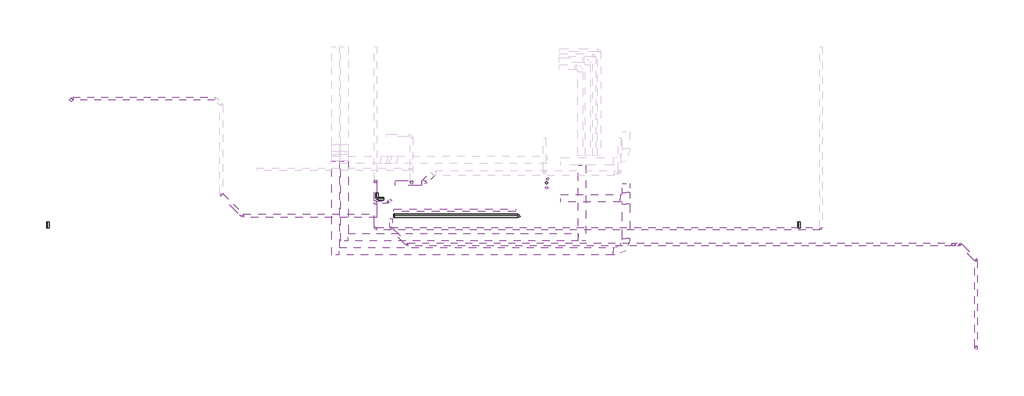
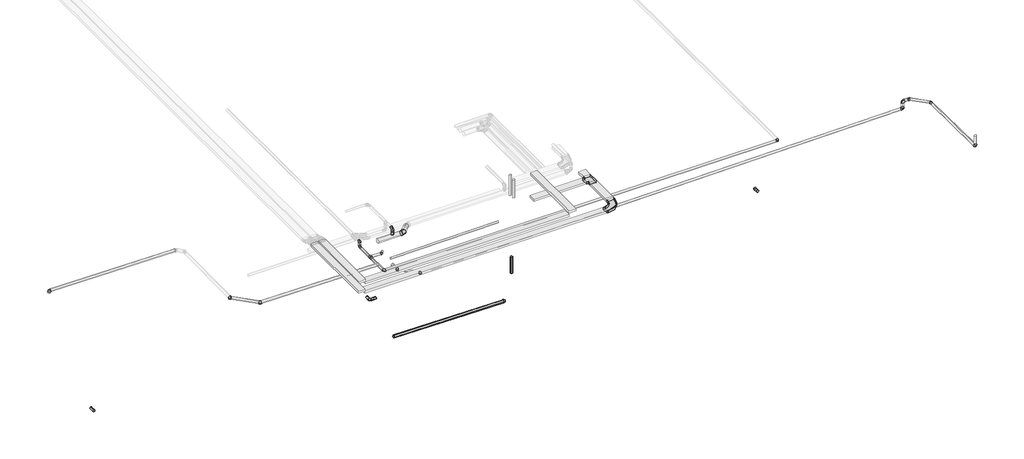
# One storey, part 1 of 5: 27 pipe segments, 18 pipe fittings, 8 cable carrier segments, 3 duct fittings, 3 duct segments, 2 cable carrier fittings.
"""IFC4 building model written with IfcOpenShell, lengths in millimetres."""

from ifc_helpers import new_model, si_unit, point, frame, frame_2d, origin, place, context, project, spatial, polyline, circle_curve, trimmed, segment, composite_curve, outline, extrude, transform, mapped, element, save
from components import el_radio_300_mm_312ed4b1, m_codo_horizontal_de_canal_el_5b0e7b07, ext_562ff85e, m_codo_redondo_ext_1_d_96ea52f9, m_codo_redondo_ext_1_d_19f6bd6d, pipe_fitting_911ec8aa, pipe_fitting_0b7fd5a4, pipe_fitting_aab77541, pipe_fitting_0af9fee6, pipe_fitting_39727cd3, pipe_fitting_87aeffad, pipe_fitting_4a6b8cfe, pipe_fitting_2d09eb79, pipe_fitting_6566bc79

model = new_model("IFC4")

# Units and contexts
model_context = context("Model", 3, world=origin())
ifc_project = project(units=[si_unit("LENGTHUNIT", "METRE", prefix="MILLI")], contexts=[model_context])

# Site, building, storey
site = spatial("IfcSite", under=ifc_project)
building = spatial("IfcBuilding", under=site)
storey = spatial("IfcBuildingStorey", under=building, Name="Nivell 01 P01_PP", Elevation=11160.0)

# Cable carrier fittings
placement = place(None, origin())
el_radio_300_mm_shape = el_radio_300_mm_312ed4b1(model_context)
element("IfcCableCarrierFitting", 1, ObjectType="M_Te horizontal de canal : EL_Radio 300 mm", at=placement, inside=storey, context=model_context, shape_type="MappedRepresentation", body=[
    mapped(el_radio_300_mm_shape, transform((16614.6624278, -16993.7433657, 14324.0212739), x_axis=(0.0, -1.0, 0.0), y_axis=(1.0, 0.0, 0.0), z_axis=(0.0, 0.0, 1.0))),
])
m_codo_horizontal_de_canal_el_shape = m_codo_horizontal_de_canal_el_5b0e7b07(model_context)
element("IfcCableCarrierFitting", 2, ObjectType="M_Codo horizontal de canal : EL", at=placement, inside=storey, context=model_context, shape_type="MappedRepresentation", body=[
    mapped(m_codo_horizontal_de_canal_el_shape, transform((16614.6624278, -19116.2171768, 14324.0212739), x_axis=(1.0, 0.0, 0.0), y_axis=(0.0, 1.0, 0.0), z_axis=(0.0, 0.0, 1.0))),
])

# Cable carrier segments
element("IfcCableCarrierSegment", 3, ObjectType="EL", at=placement, inside=storey, context=model_context, shape_type="SweptSolid", body=[
    extrude(outline(polyline([(16464.6624278, -17219.7433657), (16764.6624278, -17219.7433657), (16764.6624278, -18591.2171768), (16464.6624278, -18591.2171768), (16464.6624278, -17219.7433657)])), frame((0.0, 0.0, 14274.0212739), z_axis=(0.0, 0.0, 1.0), x_axis=(1.0, 0.0, 0.0)), (0.0, 0.0, 1.0), 100.0),
])
element("IfcCableCarrierSegment", 4, ObjectType="EL", at=placement, inside=storey, context=model_context, shape_type="SweptSolid", body=[
    extrude(outline(polyline([(16089.6624278, -18966.2171768), (16089.6624278, -19266.2171768), (5158.2381883, -19266.2171768), (5158.2381883, -18966.2171768), (16089.6624278, -18966.2171768)])), frame((0.0, 0.0, 14274.0212739), z_axis=(0.0, 0.0, 1.0), x_axis=(1.0, 0.0, 0.0)), (0.0, 0.0, 1.0), 100.0),
])
element("IfcCableCarrierSegment", 5, ObjectType="EL", at=placement, inside=storey, context=model_context, shape_type="SweptSolid", body=[
    extrude(outline(polyline([(16464.6624278, -16393.7433657), (16764.6624278, -16393.7433657), (16764.6624278, -16767.7433657), (16464.6624278, -16767.7433657), (16464.6624278, -16393.7433657)])), frame((0.0, 0.0, 14274.0212739), z_axis=(0.0, 0.0, 1.0), x_axis=(1.0, 0.0, 0.0)), (0.0, 0.0, 1.0), 100.0),
])
element("IfcCableCarrierSegment", 6, ObjectType="EL", at=placement, inside=storey, context=model_context, shape_type="SweptSolid", body=[
    extrude(outline(polyline([(16388.6624278, -16843.7433657), (16388.6624278, -17143.7433657), (14011.0671065, -17143.7433657), (14011.0671065, -16843.7433657), (16388.6624278, -16843.7433657)])), frame((0.0, 0.0, 14274.0212739), z_axis=(0.0, 0.0, 1.0), x_axis=(1.0, 0.0, 0.0)), (0.0, 0.0, 1.0), 100.0),
])
element("IfcCableCarrierSegment", 7, ObjectType="EL", at=placement, inside=storey, context=model_context, shape_type="SweptSolid", body=[
    extrude(outline(polyline([(14707.0671065, -15671.1304394), (15007.0671065, -15671.1304394), (15007.0671065, -18700.3999814), (14707.0671065, -18700.3999814), (14707.0671065, -15671.1304394)])), frame((0.0, 0.0, 14410.0), z_axis=(0.0, 0.0, 1.0), x_axis=(1.0, 0.0, 0.0)), (0.0, 0.0, 1.0), 100.0),
])
element("IfcCableCarrierSegment", 8, ObjectType="EL", at=placement, inside=storey, context=model_context, shape_type="SweptSolid", body=[
    extrude(outline(polyline([(14707.0671065, -18400.3999814), (14707.0671065, -18700.3999814), (5507.0671065, -18700.3999814), (5507.0671065, -18400.3999814), (14707.0671065, -18400.3999814)])), frame((0.0, 0.0, 14241.5185208), z_axis=(0.0, 0.0, 1.0), x_axis=(1.0, 0.0, 0.0)), (0.0, 0.0, 1.0), 100.0),
])
element("IfcCableCarrierSegment", 9, ObjectType="EL", at=placement, inside=storey, context=model_context, shape_type="SweptSolid", body=[
    extrude(outline(polyline([(4858.2381883, -15500.01931), (5158.2381883, -15500.01931), (5158.2381883, -19266.2171768), (4858.2381883, -19266.2171768), (4858.2381883, -15500.01931)])), frame((0.0, 0.0, 14360.0), z_axis=(0.0, 0.0, 1.0), x_axis=(1.0, 0.0, 0.0)), (0.0, 0.0, 1.0), 100.0),
])
element("IfcCableCarrierSegment", 10, ObjectType="EL", at=placement, inside=storey, context=model_context, shape_type="SweptSolid", body=[
    extrude(outline(polyline([(5207.0671065, -15500.01931), (5507.0671065, -15500.01931), (5507.0671065, -18700.3999814), (5207.0671065, -18700.3999814), (5207.0671065, -15500.01931)])), frame((0.0, 0.0, 14360.0), z_axis=(0.0, 0.0, 1.0), x_axis=(1.0, 0.0, 0.0)), (0.0, 0.0, 1.0), 100.0),
])

# Duct fittings
ext_shape = ext_562ff85e(model_context)
element("IfcDuctFitting", 11, ObjectType="M_Toma de derivación redonda : EXT", at=placement, inside=storey, context=model_context, shape_type="MappedRepresentation", body=[
    mapped(ext_shape, transform((8050.5896993, -16372.9719502, 14340.0), x_axis=(0.0, 0.0, 1.0), y_axis=(-1.0, 0.0, 0.0), z_axis=(0.0, -1.0, 0.0))),
])
m_codo_redondo_ext_1_d_shape = m_codo_redondo_ext_1_d_96ea52f9(model_context)
element("IfcDuctFitting", 12, ObjectType="M_Codo redondo : EXT_1 D", at=placement, inside=storey, context=model_context, shape_type="MappedRepresentation", body=[
    mapped(m_codo_redondo_ext_1_d_shape, transform((8050.5896993, -16372.9719502, 14610.0), x_axis=(0.0, -1.0, 0.0), y_axis=(0.0, 0.0, 1.0), z_axis=(-1.0, 0.0, 0.0))),
])
m_codo_redondo_ext_1_d_2_shape = m_codo_redondo_ext_1_d_19f6bd6d(model_context)
element("IfcDuctFitting", 13, ObjectType="M_Codo redondo : EXT_1 D", at=placement, inside=storey, context=model_context, shape_type="MappedRepresentation", body=[
    mapped(m_codo_redondo_ext_1_d_2_shape, transform((8530.5878282, -16372.9738213, 14240.0), x_axis=(-0.7071067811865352, -0.7071067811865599, 0.0), y_axis=(0.7071067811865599, -0.7071067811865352, 0.0), z_axis=(0.0, 0.0, 1.0))),
])

# Duct segments
element("IfcDuctSegment", 14, ObjectType="EXT_Acer Galvanitzat - Rígid", at=placement, inside=storey, context=model_context, shape_type="SweptSolid", body=[
    extrude(outline(composite_curve([segment(trimmed(circle_curve(frame_2d((8050.5896993, -16372.9719502)), 50.0), [point((8000.5896993, -16372.9719502))], [point((8050.5896993, -16322.9719502))], False, "CARTESIAN"), True, "CONTINUOUS"), segment(trimmed(circle_curve(frame_2d((8050.5896993, -16372.9719502)), 50.0), [point((8050.5896993, -16322.9719502))], [point((8100.5896993, -16372.9719502))], False, "CARTESIAN"), True, "CONTINUOUS"), segment(trimmed(circle_curve(frame_2d((8050.5896993, -16372.9719502)), 50.0), [point((8100.5896993, -16372.9719502))], [point((8050.5896993, -16422.9719502))], False, "CARTESIAN"), True, "CONTINUOUS"), segment(trimmed(circle_curve(frame_2d((8050.5896993, -16372.9719502)), 50.0), [point((8050.5896993, -16422.9719502))], [point((8000.5896993, -16372.9719502))], False, "CARTESIAN"), True, "CONTINUOUS")], self_intersect=False)), frame((0.0, 0.0, 14441.6), z_axis=(0.0, 0.0, 1.0), x_axis=(1.0, 0.0, 0.0)), (0.0, 0.0, 1.0), 68.4),
])
element("IfcDuctSegment", 15, ObjectType="EXT_Acer Galvanitzat - Rígid", at=placement, inside=storey, context=model_context, shape_type="SweptSolid", body=[
    extrude(outline(composite_curve([segment(trimmed(circle_curve(frame_2d((0.0, -100.0)), 100.0), [point((-100.0, -100.0))], [point((0.0, 0.0))], False, "CARTESIAN"), True, "CONTINUOUS"), segment(trimmed(circle_curve(frame_2d((0.0, -100.0)), 100.0), [point((0.0, 0.0))], [point((100.0, -100.0))], False, "CARTESIAN"), True, "CONTINUOUS"), segment(trimmed(circle_curve(frame_2d((0.0, -100.0)), 100.0), [point((100.0, -100.0))], [point((0.0, -200.0))], False, "CARTESIAN"), True, "CONTINUOUS"), segment(trimmed(circle_curve(frame_2d((0.0, -100.0)), 100.0), [point((0.0, -200.0))], [point((-100.0, -100.0))], False, "CARTESIAN"), True, "CONTINUOUS")], self_intersect=False)), frame((8589.166472, -16314.3951775, 14140.0), z_axis=(0.7071067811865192, 0.707106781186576, 0.0), x_axis=(0.707106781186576, -0.7071067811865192, 0.0)), (0.0, 0.0, 1.0), 400.0026461),
])
element("IfcDuctSegment", 16, ObjectType="EXT_Acer Galvanitzat - Rígid", at=placement, inside=storey, context=model_context, shape_type="SweptSolid", body=[
    extrude(outline(composite_curve([segment(trimmed(circle_curve(frame_2d((-16372.9738213, 14240.0)), 100.0), [point((-16272.9738213, 14240.0))], [point((-16372.9738213, 14140.0))], False, "CARTESIAN"), True, "CONTINUOUS"), segment(trimmed(circle_curve(frame_2d((-16372.9738213, 14240.0)), 100.0), [point((-16372.9738213, 14140.0))], [point((-16472.9738213, 14240.0))], False, "CARTESIAN"), True, "CONTINUOUS"), segment(trimmed(circle_curve(frame_2d((-16372.9738213, 14240.0)), 100.0), [point((-16472.9738213, 14240.0))], [point((-16372.9738213, 14340.0))], False, "CARTESIAN"), True, "CONTINUOUS"), segment(trimmed(circle_curve(frame_2d((-16372.9738213, 14240.0)), 100.0), [point((-16372.9738213, 14340.0))], [point((-16272.9738213, 14240.0))], False, "CARTESIAN"), True, "CONTINUOUS")], self_intersect=False)), frame((7390.5878282, 0.0, 0.0), z_axis=(1.0, 0.0, 0.0), x_axis=(0.0, 1.0, 0.0)), (0.0, 0.0, 1.0), 1057.1572875),
])

# Pipe fittings
pipe_fitting_shape = pipe_fitting_911ec8aa(model_context)
element("IfcPipeFitting", 17, ObjectType="M_Codo - Genérico : Estándar", at=placement, inside=storey, context=model_context, shape_type="MappedRepresentation", body=[
    mapped(pipe_fitting_shape, transform((448.2074284, -16835.4881387, 14229.5391455), x_axis=(-0.707071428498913, 0.7070714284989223, 0.00999950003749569), y_axis=(-0.7071300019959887, -0.7070714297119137, -0.004141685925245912), z_axis=(0.004141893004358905, -0.009999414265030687, 0.9999414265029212))),
])
element("IfcPipeFitting", 18, ObjectType="M_Codo - Genérico : Estándar", at=placement, inside=storey, context=model_context, shape_type="MappedRepresentation", body=[
    mapped(pipe_fitting_shape, transform((1303.7923779, -17691.0727446, 14217.4979937), x_axis=(-0.9999500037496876, 0.0, 0.009999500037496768), y_axis=(-4.14168592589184e-05, -0.9999914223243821, -0.00414168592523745), z_axis=(0.009999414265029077, -0.004141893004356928, 0.9999414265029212))),
])
element("IfcPipeFitting", 19, ObjectType="M_Codo - Genérico : Estándar", at=placement, inside=storey, context=model_context, shape_type="MappedRepresentation", body=[
    mapped(pipe_fitting_shape, transform((-5505.1029792, -13005.0864566, 14325.9679403), x_axis=(0.7070714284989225, 0.7070714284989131, -0.009999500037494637), y_axis=(-0.7070714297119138, 0.7071300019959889, 0.004141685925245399), z_axis=(0.009999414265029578, 0.004141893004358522, 0.9999414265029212))),
])
pipe_fitting_2_shape = pipe_fitting_0b7fd5a4(model_context)
element("IfcPipeFitting", 20, ObjectType="M_Codo - Genérico : Estándar", at=placement, inside=storey, context=model_context, shape_type="MappedRepresentation", body=[
    mapped(pipe_fitting_2_shape, transform((30589.4059114, -19474.4581925, 14624.9769213), x_axis=(0.0, 0.9999500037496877, -0.009999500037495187), y_axis=(-0.9999914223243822, -4.141685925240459e-05, -0.004141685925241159), z_axis=(-0.004141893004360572, 0.009999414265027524, 0.9999414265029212))),
])
element("IfcPipeFitting", 21, ObjectType="M_Codo - Genérico : Estándar", at=placement, inside=storey, context=model_context, shape_type="MappedRepresentation", body=[
    mapped(pipe_fitting_2_shape, transform((7870.1942893, -18840.3956727, 14044.0689991), x_axis=(0.7070714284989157, -0.7070714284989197, 0.009999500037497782), y_axis=(0.7070714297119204, 0.7071300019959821, 0.004141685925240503), z_axis=(-0.009999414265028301, 0.004141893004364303, 0.9999414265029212))),
])
element("IfcPipeFitting", 22, ObjectType="M_Codo - Genérico : Estándar", at=placement, inside=storey, context=model_context, shape_type="MappedRepresentation", body=[
    mapped(pipe_fitting_2_shape, transform((7222.9422017, -18193.1435851, 14034.9154723), x_axis=(0.0, -0.9999500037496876, 0.009999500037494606), y_axis=(0.9999914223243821, 4.141685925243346e-05, 0.004141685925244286), z_axis=(-0.004141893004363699, 0.009999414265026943, 0.9999414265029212))),
])
pipe_fitting_3_shape = pipe_fitting_aab77541(model_context)
element("IfcPipeFitting", 23, ObjectType="M_Codo - Genérico : Estándar", at=placement, inside=storey, context=model_context, shape_type="MappedRepresentation", body=[
    mapped(pipe_fitting_3_shape, transform((30589.4059114, -22976.7660651, 14660.0), x_axis=(0.0, 0.0, -1.0), y_axis=(0.0, 1.0, 0.0), z_axis=(1.0, 0.0, 0.0))),
])
element("IfcPipeFitting", 24, ObjectType="M_Codo - Genérico : Estándar", at=placement, inside=storey, context=model_context, shape_type="MappedRepresentation", body=[
    mapped(pipe_fitting_3_shape, transform((29687.5503889, -18840.3956727, 14262.2425601), x_axis=(0.9999500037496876, 0.0, 0.00999950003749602), y_axis=(-0.00999950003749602, 0.0, 0.9999500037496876), z_axis=(0.0, -1.0, 0.0))),
])
pipe_fitting_4_shape = pipe_fitting_0af9fee6(model_context)
element("IfcPipeFitting", 25, ObjectType="M_Codo - Genérico : Estándar", at=placement, inside=storey, context=model_context, shape_type="MappedRepresentation", body=[
    mapped(pipe_fitting_4_shape, transform((29955.352721, -18840.4049607, 14616.0030113), x_axis=(-0.7070713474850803, 0.7070713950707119, -0.010007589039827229), y_axis=(-0.7070715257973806, -0.7071299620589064, -0.0041320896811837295), z_axis=(-0.009998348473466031, 0.004154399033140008, 0.9999413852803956))),
])
pipe_fitting_5_shape = pipe_fitting_39727cd3(model_context)
element("IfcPipeFitting", 26, ObjectType="M_Codo - Genérico : Estándar", at=placement, inside=storey, context=model_context, shape_type="MappedRepresentation", body=[
    mapped(pipe_fitting_5_shape, transform((29687.5503889, -18840.4049607, 14613.3252733), x_axis=(-0.9999500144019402, 0.0, -0.009998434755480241), y_axis=(0.009998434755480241, 0.0, -0.9999500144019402), z_axis=(0.0, -1.0, 0.0))),
])
pipe_fitting_6_shape = pipe_fitting_87aeffad(model_context)
element("IfcPipeFitting", 27, ObjectType="M_Codo - Genérico : Estándar", at=placement, inside=storey, context=model_context, shape_type="MappedRepresentation", body=[
    mapped(pipe_fitting_6_shape, transform((6656.4795907, -17006.4845942, 12060.0), x_axis=(0.0, -1.0, 0.0), y_axis=(1.0, 0.0, 0.0), z_axis=(0.0, 0.0, 1.0))),
])
element("IfcPipeFitting", 28, ObjectType="M_Codo - Genérico : Estándar", at=placement, inside=storey, context=model_context, shape_type="MappedRepresentation", body=[
    mapped(pipe_fitting_6_shape, transform((6603.8941113, -18211.6106458, 14209.2), x_axis=(0.0, -1.0, 0.0), y_axis=(1.0, 0.0, 0.0), z_axis=(0.0, 0.0, 1.0))),
])
element("IfcPipeFitting", 29, ObjectType="M_Codo - Genérico : Estándar", at=placement, inside=storey, context=model_context, shape_type="MappedRepresentation", body=[
    mapped(pipe_fitting_6_shape, transform((24403.8941113, -18211.6106458, 14209.2), x_axis=(1.0, 0.0, 0.0), y_axis=(0.0, 1.0, 0.0), z_axis=(0.0, 0.0, 1.0))),
])
element("IfcPipeFitting", 30, ObjectType="M_Codo - Genérico : Estándar", at=placement, inside=storey, context=model_context, shape_type="MappedRepresentation", body=[
    mapped(pipe_fitting_6_shape, transform((6603.8941113, -16317.1543958, 14209.2), x_axis=(0.0, 1.0, 0.0), y_axis=(0.0, 0.0, 1.0), z_axis=(1.0, 0.0, 0.0))),
])
element("IfcPipeFitting", 31, ObjectType="M_Codo - Genérico : Estándar", at=placement, inside=storey, context=model_context, shape_type="MappedRepresentation", body=[
    mapped(pipe_fitting_6_shape, transform((6603.8941113, -16317.1543958, 14460.8), x_axis=(0.0, -1.0, 0.0), y_axis=(0.0, 0.0, -1.0), z_axis=(1.0, 0.0, 0.0))),
])
pipe_fitting_7_shape = pipe_fitting_4a6b8cfe(model_context)
element("IfcPipeFitting", 32, ObjectType="M_Codo - Genérico : Estándar", at=placement, inside=storey, context=model_context, shape_type="MappedRepresentation", body=[
    mapped(pipe_fitting_7_shape, transform((7103.8941113, -17152.8731458, 14209.2), x_axis=(1.0, 0.0, 0.0), y_axis=(0.0, 1.0, 0.0), z_axis=(0.0, 0.0, 1.0))),
])
pipe_fitting_8_shape = pipe_fitting_2d09eb79(model_context)
element("IfcPipeFitting", 33, ObjectType="M_Te - Genérica : Estándar", at=placement, inside=storey, context=model_context, shape_type="MappedRepresentation", body=[
    mapped(pipe_fitting_8_shape, transform((6603.8941113, -17152.8731458, 14209.2), x_axis=(0.0, -1.0, 0.0), y_axis=(-1.0, 0.0, 0.0), z_axis=(0.0, 0.0, -1.0))),
])
pipe_fitting_9_shape = pipe_fitting_6566bc79(model_context)
element("IfcPipeFitting", 34, ObjectType="M_Codo - Genérico : Estándar", at=placement, inside=storey, context=model_context, shape_type="MappedRepresentation", body=[
    mapped(pipe_fitting_9_shape, transform((12319.6314132, -17686.3801611, 10430.8132842), x_axis=(0.9999500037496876, 0.0, -0.009999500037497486), y_axis=(-4.1427640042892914e-05, 0.9999914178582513, -0.004142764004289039), z_axis=(0.009999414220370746, 0.004142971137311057, 0.9999414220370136))),
])

# Pipe segments
element("IfcPipeSegment", 35, ObjectType="PVC_Baixant", at=placement, inside=storey, context=model_context, shape_type="SweptSolid", body=[
    extrude(outline(composite_curve([segment(trimmed(circle_curve(frame_2d((13434.5619983, -16570.9933177)), 55.0), [point((13379.5619983, -16570.9933177))], [point((13434.5619983, -16515.9933177))], False, "CARTESIAN"), True, "CONTINUOUS"), segment(trimmed(circle_curve(frame_2d((13434.5619983, -16570.9933177)), 55.0), [point((13434.5619983, -16515.9933177))], [point((13489.5619983, -16570.9933177))], False, "CARTESIAN"), True, "CONTINUOUS"), segment(trimmed(circle_curve(frame_2d((13434.5619983, -16570.9933177)), 55.0), [point((13489.5619983, -16570.9933177))], [point((13434.5619983, -16625.9933177))], False, "CARTESIAN"), True, "CONTINUOUS"), segment(trimmed(circle_curve(frame_2d((13434.5619983, -16570.9933177)), 55.0), [point((13434.5619983, -16625.9933177))], [point((13379.5619983, -16570.9933177))], False, "CARTESIAN"), True, "CONTINUOUS")], self_intersect=False)), frame((0.0, 0.0, 14322.3112718), z_axis=(0.0, 0.0, 1.0), x_axis=(1.0, 0.0, 0.0)), (0.0, 0.0, 1.0), 837.6887282),
])
element("IfcPipeSegment", 36, ObjectType="PVC_Baixant", at=placement, inside=storey, context=model_context, shape_type="SweptSolid", body=[
    extrude(outline(composite_curve([segment(trimmed(circle_curve(frame_2d((0.0, 45.0)), 45.0), [point((-45.0, 45.0))], [point((-1e-07, 90.0))], False, "CARTESIAN"), True, "CONTINUOUS"), segment(trimmed(circle_curve(frame_2d((0.0, 45.0)), 45.0), [point((-1e-07, 90.0))], [point((44.9999999, 45.0))], False, "CARTESIAN"), True, "CONTINUOUS"), segment(trimmed(circle_curve(frame_2d((0.0, 45.0)), 45.0), [point((44.9999999, 45.0))], [point((0.0, 0.0))], False, "CARTESIAN"), True, "CONTINUOUS"), segment(trimmed(circle_curve(frame_2d((0.0, 45.0)), 45.0), [point((0.0, 0.0))], [point((-45.0, 45.0))], False, "CARTESIAN"), True, "CONTINUOUS")], self_intersect=False)), frame((13475.0176167, -16259.1987939, 14202.9893661), z_axis=(2.1629648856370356e-05, 5.915680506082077e-06, 0.9999999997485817), x_axis=(0.9999999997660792, -1.2795453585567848e-10, -2.162964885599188e-05)), (0.0, 0.0, 1.0), 957.0108981),
])
element("IfcPipeSegment", 37, ObjectType="PVC_Baixant", at=placement, inside=storey, context=model_context, shape_type="SweptSolid", body=[
    extrude(outline(composite_curve([segment(trimmed(circle_curve(frame_2d((0.0, -45.0)), 45.0), [point((0.0, 0.0))], [point((44.9999999, -45.0))], False, "CARTESIAN"), True, "CONTINUOUS"), segment(trimmed(circle_curve(frame_2d((0.0, -45.0)), 45.0), [point((44.9999999, -45.0))], [point((0.0, -90.0))], False, "CARTESIAN"), True, "CONTINUOUS"), segment(trimmed(circle_curve(frame_2d((0.0, -45.0)), 45.0), [point((0.0, -90.0))], [point((-45.0, -45.0))], False, "CARTESIAN"), True, "CONTINUOUS"), segment(trimmed(circle_curve(frame_2d((0.0, -45.0)), 45.0), [point((-45.0, -45.0))], [point((0.0, 0.0))], False, "CARTESIAN"), True, "CONTINUOUS")], self_intersect=False)), frame((7341.6214565, -17426.0727446, 14084.582754), z_axis=(0.9999500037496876, 0.0, 0.009999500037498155), x_axis=(0.009999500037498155, 0.0, -0.9999500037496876)), (0.0, 0.0, 1.0), 4855.0676875),
])
element("IfcPipeSegment", 38, ObjectType="PVC_Baixant", at=placement, inside=storey, context=model_context, shape_type="SweptSolid", body=[
    extrude(outline(composite_curve([segment(trimmed(circle_curve(frame_2d((30589.4059114, -22976.7660651)), 55.0), [point((30534.4059114, -22976.7660651))], [point((30589.4059114, -22921.7660651))], False, "CARTESIAN"), True, "CONTINUOUS"), segment(trimmed(circle_curve(frame_2d((30589.4059114, -22976.7660651)), 55.0), [point((30589.4059114, -22921.7660651))], [point((30644.4059114, -22976.7660651))], False, "CARTESIAN"), True, "CONTINUOUS"), segment(trimmed(circle_curve(frame_2d((30589.4059114, -22976.7660651)), 55.0), [point((30644.4059114, -22976.7660651))], [point((30589.4059114, -23031.7660651))], False, "CARTESIAN"), True, "CONTINUOUS"), segment(trimmed(circle_curve(frame_2d((30589.4059114, -22976.7660651)), 55.0), [point((30589.4059114, -23031.7660651))], [point((30534.4059114, -22976.7660651))], False, "CARTESIAN"), True, "CONTINUOUS")], self_intersect=False)), frame((0.0, 0.0, 14722.3112718), z_axis=(0.0, 0.0, 1.0), x_axis=(1.0, 0.0, 0.0)), (0.0, 0.0, 1.0), 437.6887282),
])
element("IfcPipeSegment", 39, ObjectType="PVC_Baixant", at=placement, inside=storey, context=model_context, shape_type="SweptSolid", body=[
    extrude(outline(composite_curve([segment(trimmed(circle_curve(frame_2d((0.0, -55.0)), 55.0), [point((55.0, -55.0))], [point((0.0, -110.0))], False, "CARTESIAN"), True, "CONTINUOUS"), segment(trimmed(circle_curve(frame_2d((0.0, -55.0)), 55.0), [point((0.0, -110.0))], [point((-55.0, -55.0))], False, "CARTESIAN"), True, "CONTINUOUS"), segment(trimmed(circle_curve(frame_2d((0.0, -55.0)), 55.0), [point((-55.0, -55.0))], [point((0.0, 0.0))], False, "CARTESIAN"), True, "CONTINUOUS"), segment(trimmed(circle_curve(frame_2d((0.0, -55.0)), 55.0), [point((0.0, 0.0))], [point((55.0, -55.0))], False, "CARTESIAN"), True, "CONTINUOUS")], self_intersect=False)), frame((30589.4059114, -19499.9749558, 14680.2348388), z_axis=(0.0, -0.9999500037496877, 0.009999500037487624), x_axis=(1.0, 0.0, 0.0)), (0.0, 0.0, 1.0), 3414.1036727),
])
element("IfcPipeSegment", 40, ObjectType="PVC_Baixant", at=placement, inside=storey, context=model_context, shape_type="SweptSolid", body=[
    extrude(outline(composite_curve([segment(trimmed(circle_curve(frame_2d((0.0, -55.0)), 55.0), [point((54.997246, -54.4496102))], [point((0.5503897, -109.9972461))], False, "CARTESIAN"), True, "CONTINUOUS"), segment(trimmed(circle_curve(frame_2d((0.0, -55.0)), 55.0), [point((0.5503897, -109.9972461))], [point((-54.997246, -55.5503898))], False, "CARTESIAN"), True, "CONTINUOUS"), segment(trimmed(circle_curve(frame_2d((0.0, -55.0)), 55.0), [point((-54.997246, -55.5503898))], [point((-0.5503899, -0.0027539))], False, "CARTESIAN"), True, "CONTINUOUS"), segment(trimmed(circle_curve(frame_2d((0.0, -55.0)), 55.0), [point((-0.5503899, -0.0027539))], [point((54.997246, -54.4496102))], False, "CARTESIAN"), True, "CONTINUOUS")], self_intersect=False)), frame((29973.7846855, -18858.0585576, 14671.2583814), z_axis=(0.7070713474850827, -0.7070713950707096, 0.010007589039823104), x_axis=(0.7071422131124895, 0.7070005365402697, -0.010006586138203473)), (0.0, 0.0, 1.0), 844.5954746),
])
element("IfcPipeSegment", 41, ObjectType="PVC_Baixant", at=placement, inside=storey, context=model_context, shape_type="SweptSolid", body=[
    extrude(outline(composite_curve([segment(trimmed(circle_curve(frame_2d((0.0, -55.0)), 55.0), [point((0.0, 0.0))], [point((55.0, -55.0))], False, "CARTESIAN"), True, "CONTINUOUS"), segment(trimmed(circle_curve(frame_2d((0.0, -55.0)), 55.0), [point((55.0, -55.0))], [point((0.0, -110.0))], False, "CARTESIAN"), True, "CONTINUOUS"), segment(trimmed(circle_curve(frame_2d((0.0, -55.0)), 55.0), [point((0.0, -110.0))], [point((-55.0, -55.0))], False, "CARTESIAN"), True, "CONTINUOUS"), segment(trimmed(circle_curve(frame_2d((0.0, -55.0)), 55.0), [point((-55.0, -55.0))], [point((0.0, 0.0))], False, "CARTESIAN"), True, "CONTINUOUS")], self_intersect=False)), frame((7896.2610251, -18785.3956727, 14044.3296664), z_axis=(0.9999500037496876, 0.0, 0.009999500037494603), x_axis=(0.009999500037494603, 0.0, -0.9999500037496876)), (0.0, 0.0, 1.0), 21730.0676293),
])
element("IfcPipeSegment", 42, ObjectType="PVC_Baixant", at=placement, inside=storey, context=model_context, shape_type="SweptSolid", body=[
    extrude(outline(composite_curve([segment(trimmed(circle_curve(frame_2d((0.0, -55.0)), 55.0), [point((54.9972505, -54.450055))], [point((0.549945, -109.9972505))], False, "CARTESIAN"), True, "CONTINUOUS"), segment(trimmed(circle_curve(frame_2d((0.0, -55.0)), 55.0), [point((0.549945, -109.9972505))], [point((-54.9972505, -55.549945))], False, "CARTESIAN"), True, "CONTINUOUS"), segment(trimmed(circle_curve(frame_2d((0.0, -55.0)), 55.0), [point((-54.9972505, -55.549945))], [point((-0.5499449, -0.0027495))], False, "CARTESIAN"), True, "CONTINUOUS"), segment(trimmed(circle_curve(frame_2d((0.0, -55.0)), 55.0), [point((-0.5499449, -0.0027495))], [point((54.9972505, -54.450055))], False, "CARTESIAN"), True, "CONTINUOUS")], self_intersect=False)), frame((7241.3741673, -18210.797811, 14090.1706404), z_axis=(0.707071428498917, -0.7070714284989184, 0.009999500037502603), x_axis=(0.7071421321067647, 0.7070007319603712, -0.009998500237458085)), (0.0, 0.0, 1.0), 863.2623688),
])
element("IfcPipeSegment", 43, ObjectType="PVC_Baixant", at=placement, inside=storey, context=model_context, shape_type="SweptSolid", body=[
    extrude(outline(composite_curve([segment(trimmed(circle_curve(frame_2d((0.0, -55.0)), 55.0), [point((0.0, 0.0))], [point((55.0, -55.0))], False, "CARTESIAN"), True, "CONTINUOUS"), segment(trimmed(circle_curve(frame_2d((0.0, -55.0)), 55.0), [point((55.0, -55.0))], [point((0.0, -110.0))], False, "CARTESIAN"), True, "CONTINUOUS"), segment(trimmed(circle_curve(frame_2d((0.0, -55.0)), 55.0), [point((0.0, -110.0))], [point((-55.0, -55.0))], False, "CARTESIAN"), True, "CONTINUOUS"), segment(trimmed(circle_curve(frame_2d((0.0, -55.0)), 55.0), [point((-55.0, -55.0))], [point((0.0, 0.0))], False, "CARTESIAN"), True, "CONTINUOUS")], self_intersect=False)), frame((29749.8586125, -18785.4049607, 14613.9482891), z_axis=(0.9999500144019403, 0.0, 0.009998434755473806), x_axis=(0.009998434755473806, 0.0, -0.9999500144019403)), (0.0, 0.0, 1.0), 179.4363416),
])
element("IfcPipeSegment", 44, ObjectType="PVC_Baixant", at=placement, inside=storey, context=model_context, shape_type="SweptSolid", body=[
    extrude(outline(composite_curve([segment(trimmed(circle_curve(frame_2d((0.0, 54.9999999)), 55.0), [point((-55.0, 54.9999999))], [point((0.0, 110.0))], False, "CARTESIAN"), True, "CONTINUOUS"), segment(trimmed(circle_curve(frame_2d((0.0, 54.9999999)), 55.0), [point((0.0, 110.0))], [point((55.0, 54.9999999))], False, "CARTESIAN"), True, "CONTINUOUS"), segment(trimmed(circle_curve(frame_2d((0.0, 54.9999999)), 55.0), [point((55.0, 54.9999999))], [point((0.0, 0.0))], False, "CARTESIAN"), True, "CONTINUOUS"), segment(trimmed(circle_curve(frame_2d((0.0, 54.9999999)), 55.0), [point((0.0, 0.0))], [point((-55.0, 54.9999999))], False, "CARTESIAN"), True, "CONTINUOUS")], self_intersect=False)), frame((29687.5503889, -18895.3956726, 14324.5515761), z_axis=(0.0, -4.1014092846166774e-05, 0.9999999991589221), x_axis=(1.0, 0.0, 0.0)), (0.0, 0.0, 1.0), 226.4600963),
])
element("IfcPipeSegment", 45, ObjectType="PVC_Baixant", at=placement, inside=storey, context=model_context, shape_type="SweptSolid", body=[
    extrude(outline(composite_curve([segment(trimmed(circle_curve(frame_2d((0.0, -55.0)), 55.0), [point((55.0, -55.0))], [point((0.0, -110.0))], False, "CARTESIAN"), True, "CONTINUOUS"), segment(trimmed(circle_curve(frame_2d((0.0, -55.0)), 55.0), [point((0.0, -110.0))], [point((-55.0, -55.0))], False, "CARTESIAN"), True, "CONTINUOUS"), segment(trimmed(circle_curve(frame_2d((0.0, -55.0)), 55.0), [point((-55.0, -55.0))], [point((0.0, 0.0))], False, "CARTESIAN"), True, "CONTINUOUS"), segment(trimmed(circle_curve(frame_2d((0.0, -55.0)), 55.0), [point((0.0, 0.0))], [point((55.0, -55.0))], False, "CARTESIAN"), True, "CONTINUOUS")], self_intersect=False)), frame((7222.9422017, -17805.1280536, 14086.0380669), z_axis=(0.0, -0.999950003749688, 0.009999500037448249), x_axis=(1.0, 0.0, 0.0)), (0.0, 0.0, 1.0), 361.4168927),
])
element("IfcPipeSegment", 46, ObjectType="PVC_Baixant", at=placement, inside=storey, context=model_context, shape_type="SweptSolid", body=[
    extrude(outline(composite_curve([segment(trimmed(circle_curve(frame_2d((0.0, 62.5)), 62.5), [point((0.0, 125.0))], [point((62.5, 62.5))], False, "CARTESIAN"), True, "CONTINUOUS"), segment(trimmed(circle_curve(frame_2d((0.0, 62.5)), 62.5), [point((62.5, 62.5))], [point((0.0, 0.0))], False, "CARTESIAN"), True, "CONTINUOUS"), segment(trimmed(circle_curve(frame_2d((0.0, 62.5)), 62.5), [point((0.0, 0.0))], [point((-62.5000001, 62.5))], False, "CARTESIAN"), True, "CONTINUOUS"), segment(trimmed(circle_curve(frame_2d((0.0, 62.5)), 62.5), [point((-62.5000001, 62.5))], [point((0.0, 125.0))], False, "CARTESIAN"), True, "CONTINUOUS")], self_intersect=False)), frame((12290.0365412, -17748.8801611, 10431.109233), z_axis=(-0.9999500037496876, 0.0, 0.009999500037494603), x_axis=(0.009999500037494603, 0.0, 0.9999500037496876)), (0.0, 0.0, 1.0), 4948.3355931),
])
element("IfcPipeSegment", 47, ObjectType="PVC_Baixant", at=placement, inside=storey, context=model_context, shape_type="SweptSolid", body=[
    extrude(outline(composite_curve([segment(trimmed(circle_curve(frame_2d((0.0, 45.0)), 45.0), [point((-45.0, 45.0))], [point((0.0, 90.0))], False, "CARTESIAN"), True, "CONTINUOUS"), segment(trimmed(circle_curve(frame_2d((0.0, 45.0)), 45.0), [point((0.0, 90.0))], [point((45.0, 45.0))], False, "CARTESIAN"), True, "CONTINUOUS"), segment(trimmed(circle_curve(frame_2d((0.0, 45.0)), 45.0), [point((45.0, 45.0))], [point((0.0, 0.0))], False, "CARTESIAN"), True, "CONTINUOUS"), segment(trimmed(circle_curve(frame_2d((0.0, 45.0)), 45.0), [point((0.0, 0.0))], [point((-45.0, 45.0))], False, "CARTESIAN"), True, "CONTINUOUS")], self_intersect=False)), frame((13435.6405314, -16411.7577075, 10595.8576896), z_axis=(1.7846636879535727e-05, 3.5038834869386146e-06, 0.9999999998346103), x_axis=(0.9999999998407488, -6.253486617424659e-11, -1.7846636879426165e-05)), (0.0, 0.0, 1.0), 764.1417484),
])
element("IfcPipeSegment", 48, ObjectType="PVC_Baixant", at=placement, inside=storey, context=model_context, shape_type="SweptSolid", body=[
    extrude(outline(composite_curve([segment(trimmed(circle_curve(frame_2d((0.0, -62.5)), 62.5), [point((-62.4968755, -63.1249375))], [point((-0.6249374, -0.0031244))], False, "CARTESIAN"), True, "CONTINUOUS"), segment(trimmed(circle_curve(frame_2d((0.0, -62.5)), 62.5), [point((-0.6249374, -0.0031244))], [point((62.4968756, -61.8750625))], False, "CARTESIAN"), True, "CONTINUOUS"), segment(trimmed(circle_curve(frame_2d((0.0, -62.5)), 62.5), [point((62.4968756, -61.8750625))], [point((0.6249376, -124.9968756))], False, "CARTESIAN"), True, "CONTINUOUS"), segment(trimmed(circle_curve(frame_2d((0.0, -62.5)), 62.5), [point((0.6249376, -124.9968756))], [point((-62.4968755, -63.1249375))], False, "CARTESIAN"), True, "CONTINUOUS")], self_intersect=False)), frame((1282.8710901, -17669.2676618, 14155.3001145), z_axis=(-0.7070714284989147, 0.7070714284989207, 0.009999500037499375), x_axis=(0.7071421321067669, 0.7070007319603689, 0.009998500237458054)), (0.0, 0.0, 1.0), 1150.8622111),
])
element("IfcPipeSegment", 49, ObjectType="PVC_Baixant", at=placement, inside=storey, context=model_context, shape_type="SweptSolid", body=[
    extrude(outline(composite_curve([segment(trimmed(circle_curve(frame_2d((0.0, -62.5)), 62.5), [point((0.0, -125.0))], [point((-62.5000001, -62.5))], False, "CARTESIAN"), True, "CONTINUOUS"), segment(trimmed(circle_curve(frame_2d((0.0, -62.5)), 62.5), [point((-62.5000001, -62.5))], [point((0.0, 0.0))], False, "CARTESIAN"), True, "CONTINUOUS"), segment(trimmed(circle_curve(frame_2d((0.0, -62.5)), 62.5), [point((0.0, 0.0))], [point((62.5, -62.5))], False, "CARTESIAN"), True, "CONTINUOUS"), segment(trimmed(circle_curve(frame_2d((0.0, -62.5)), 62.5), [point((62.5, -62.5))], [point((0.0, -125.0))], False, "CARTESIAN"), True, "CONTINUOUS")], self_intersect=False)), frame((6649.365863, -17628.5727446, 14164.0422589), z_axis=(-0.9999500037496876, 0.0, 0.009999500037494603), x_axis=(0.009999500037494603, 0.0, 0.9999500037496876)), (0.0, 0.0, 1.0), 5316.2521089),
])
element("IfcPipeSegment", 50, ObjectType="PVC_Baixant", at=placement, inside=storey, context=model_context, shape_type="SweptSolid", body=[
    extrude(outline(composite_curve([segment(trimmed(circle_curve(frame_2d((0.0, 62.5)), 62.5), [point((0.0, 125.0))], [point((62.5, 62.5))], False, "CARTESIAN"), True, "CONTINUOUS"), segment(trimmed(circle_curve(frame_2d((0.0, 62.5)), 62.5), [point((62.5, 62.5))], [point((0.0, 0.0))], False, "CARTESIAN"), True, "CONTINUOUS"), segment(trimmed(circle_curve(frame_2d((0.0, 62.5)), 62.5), [point((0.0, 0.0))], [point((-62.5, 62.5))], False, "CARTESIAN"), True, "CONTINUOUS"), segment(trimmed(circle_curve(frame_2d((0.0, 62.5)), 62.5), [point((-62.5, 62.5))], [point((0.0, 125.0))], False, "CARTESIAN"), True, "CONTINUOUS")], self_intersect=False)), frame((178.203954, -13067.5864566, 14269.134871), z_axis=(-0.9999500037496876, 0.0, 0.009999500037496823), x_axis=(0.009999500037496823, 0.0, 0.9999500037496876)), (0.0, 0.0, 1.0), 5654.0024433),
])
element("IfcPipeSegment", 51, ObjectType="PVC_Baixant", at=placement, inside=storey, context=model_context, shape_type="SweptSolid", body=[
    extrude(outline(composite_curve([segment(trimmed(circle_curve(frame_2d((0.0, 62.5)), 62.5), [point((-62.4968756, 63.1249375))], [point((0.6249374, 124.9968756))], False, "CARTESIAN"), True, "CONTINUOUS"), segment(trimmed(circle_curve(frame_2d((0.0, 62.5)), 62.5), [point((0.6249374, 124.9968756))], [point((62.4968755, 61.8750625))], False, "CARTESIAN"), True, "CONTINUOUS"), segment(trimmed(circle_curve(frame_2d((0.0, 62.5)), 62.5), [point((62.4968755, 61.8750625))], [point((-0.6249375, 0.0031245))], False, "CARTESIAN"), True, "CONTINUOUS"), segment(trimmed(circle_curve(frame_2d((0.0, 62.5)), 62.5), [point((-0.6249375, 0.0031245))], [point((-62.4968756, 63.1249375))], False, "CARTESIAN"), True, "CONTINUOUS")], self_intersect=False)), frame((-5526.0242669, -13026.8915395, 14263.7700611), z_axis=(-0.7070714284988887, -0.7070714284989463, 0.009999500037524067), x_axis=(0.7071421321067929, -0.7070007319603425, 0.009998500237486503)), (0.0, 0.0, 1.0), 80.4168517),
])
element("IfcPipeSegment", 52, ObjectType="AN_CI", at=placement, inside=storey, context=model_context, shape_type="SweptSolid", body=[
    extrude(outline(composite_curve([segment(trimmed(circle_curve(frame_2d((-17006.4845942, 12060.0)), 50.8), [point((-16955.6845942, 12060.0))], [point((-17006.4845942, 12009.2))], False, "CARTESIAN"), True, "CONTINUOUS"), segment(trimmed(circle_curve(frame_2d((-17006.4845942, 12060.0)), 50.8), [point((-17006.4845942, 12009.2))], [point((-17057.2845942, 12060.0))], False, "CARTESIAN"), True, "CONTINUOUS"), segment(trimmed(circle_curve(frame_2d((-17006.4845942, 12060.0)), 50.8), [point((-17057.2845942, 12060.0))], [point((-17006.4845942, 12110.8))], False, "CARTESIAN"), True, "CONTINUOUS"), segment(trimmed(circle_curve(frame_2d((-17006.4845942, 12060.0)), 50.8), [point((-17006.4845942, 12110.8))], [point((-16955.6845942, 12060.0))], False, "CARTESIAN"), True, "CONTINUOUS")], self_intersect=False)), frame((6708.8670907, 0.0, 0.0), z_axis=(1.0, 0.0, 0.0), x_axis=(0.0, 1.0, 0.0)), (0.0, 0.0, 1.0), 227.6125),
])
element("IfcPipeSegment", 53, ObjectType="AN_CI", at=placement, inside=storey, context=model_context, shape_type="SweptSolid", body=[
    extrude(outline(composite_curve([segment(trimmed(circle_curve(frame_2d((12060.0, 6656.4795907)), 50.8), [point((12060.0, 6707.2795907))], [point((12110.8, 6656.4795907))], False, "CARTESIAN"), True, "CONTINUOUS"), segment(trimmed(circle_curve(frame_2d((12060.0, 6656.4795907)), 50.8), [point((12110.8, 6656.4795907))], [point((12060.0, 6605.6795907))], False, "CARTESIAN"), True, "CONTINUOUS"), segment(trimmed(circle_curve(frame_2d((12060.0, 6656.4795907)), 50.8), [point((12060.0, 6605.6795907))], [point((12009.2, 6656.4795907))], False, "CARTESIAN"), True, "CONTINUOUS"), segment(trimmed(circle_curve(frame_2d((12060.0, 6656.4795907)), 50.8), [point((12009.2, 6656.4795907))], [point((12060.0, 6707.2795907))], False, "CARTESIAN"), True, "CONTINUOUS")], self_intersect=False)), frame((0.0, -16954.0970942, 0.0), z_axis=(0.0, 1.0, 0.0), x_axis=(0.0, 0.0, 1.0)), (0.0, 0.0, 1.0), 167.6125),
])
element("IfcPipeSegment", 54, ObjectType="AN_CI", at=placement, inside=storey, context=model_context, shape_type="SweptSolid", body=[
    extrude(outline(composite_curve([segment(trimmed(circle_curve(frame_2d((0.0, -50.8)), 50.8), [point((-50.8, -50.8))], [point((0.0, 0.0))], False, "CARTESIAN"), True, "CONTINUOUS"), segment(trimmed(circle_curve(frame_2d((0.0, -50.8)), 50.8), [point((0.0, 0.0))], [point((50.8, -50.8))], False, "CARTESIAN"), True, "CONTINUOUS"), segment(trimmed(circle_curve(frame_2d((0.0, -50.8)), 50.8), [point((50.8, -50.8))], [point((0.0, -101.6))], False, "CARTESIAN"), True, "CONTINUOUS"), segment(trimmed(circle_curve(frame_2d((0.0, -50.8)), 50.8), [point((0.0, -101.6))], [point((-50.8, -50.8))], False, "CARTESIAN"), True, "CONTINUOUS")], self_intersect=False)), frame((7119.2380548, -17137.5292023, 14158.4), z_axis=(0.7071067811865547, 0.7071067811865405, 0.0), x_axis=(0.7071067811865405, -0.7071067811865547, 0.0)), (0.0, 0.0, 1.0), 125.912887),
])
element("IfcPipeSegment", 55, ObjectType="AN_CI", at=placement, inside=storey, context=model_context, shape_type="SweptSolid", body=[
    extrude(outline(composite_curve([segment(trimmed(circle_curve(frame_2d((-17152.8731458, 14209.2)), 50.8), [point((-17102.0731458, 14209.2))], [point((-17152.8731458, 14158.4))], False, "CARTESIAN"), True, "CONTINUOUS"), segment(trimmed(circle_curve(frame_2d((-17152.8731458, 14209.2)), 50.8), [point((-17152.8731458, 14158.4))], [point((-17203.6731458, 14209.2))], False, "CARTESIAN"), True, "CONTINUOUS"), segment(trimmed(circle_curve(frame_2d((-17152.8731458, 14209.2)), 50.8), [point((-17203.6731458, 14209.2))], [point((-17152.8731458, 14260.0))], False, "CARTESIAN"), True, "CONTINUOUS"), segment(trimmed(circle_curve(frame_2d((-17152.8731458, 14209.2)), 50.8), [point((-17152.8731458, 14260.0))], [point((-17102.0731458, 14209.2))], False, "CARTESIAN"), True, "CONTINUOUS")], self_intersect=False)), frame((6662.6316113, 0.0, 0.0), z_axis=(1.0, 0.0, 0.0), x_axis=(0.0, 1.0, 0.0)), (0.0, 0.0, 1.0), 419.562887),
])
element("IfcPipeSegment", 56, ObjectType="AN_CI", at=placement, inside=storey, context=model_context, shape_type="SweptSolid", body=[
    extrude(outline(composite_curve([segment(trimmed(circle_curve(frame_2d((0.0, -50.8)), 50.8), [point((0.0, 0.0))], [point((50.8, -50.8))], False, "CARTESIAN"), True, "CONTINUOUS"), segment(trimmed(circle_curve(frame_2d((0.0, -50.8)), 50.8), [point((50.8, -50.8))], [point((0.0, -101.5999999))], False, "CARTESIAN"), True, "CONTINUOUS"), segment(trimmed(circle_curve(frame_2d((0.0, -50.8)), 50.8), [point((0.0, -101.5999999))], [point((-50.8, -50.8))], False, "CARTESIAN"), True, "CONTINUOUS"), segment(trimmed(circle_curve(frame_2d((0.0, -50.8)), 50.8), [point((-50.8, -50.8))], [point((0.0, 0.0))], False, "CARTESIAN"), True, "CONTINUOUS")], self_intersect=False)), frame((23464.1145716, -18170.3435948, 12060.0), z_axis=(2.0856058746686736e-05, 0.9999999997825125, 0.0), x_axis=(0.0, 0.0, -1.0)), (0.0, 0.0, 1.0), 227.6125),
])
element("IfcPipeSegment", 57, ObjectType="AN_CI", at=placement, inside=storey, context=model_context, shape_type="SweptSolid", body=[
    extrude(outline(composite_curve([segment(trimmed(circle_curve(frame_2d((0.0, -50.8)), 50.8), [point((0.0, 0.0))], [point((50.8, -50.8))], False, "CARTESIAN"), True, "CONTINUOUS"), segment(trimmed(circle_curve(frame_2d((0.0, -50.8)), 50.8), [point((50.8, -50.8))], [point((0.0, -101.6))], False, "CARTESIAN"), True, "CONTINUOUS"), segment(trimmed(circle_curve(frame_2d((0.0, -50.8)), 50.8), [point((0.0, -101.6))], [point((-50.8, -50.8))], False, "CARTESIAN"), True, "CONTINUOUS"), segment(trimmed(circle_curve(frame_2d((0.0, -50.8)), 50.8), [point((-50.8, -50.8))], [point((0.0, 0.0))], False, "CARTESIAN"), True, "CONTINUOUS")], self_intersect=False)), frame((-6535.8422555, -18169.7179139, 12060.0), z_axis=(2.085605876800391e-05, 0.9999999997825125, 0.0), x_axis=(0.0, 0.0, -1.0)), (0.0, 0.0, 1.0), 227.6125),
])
element("IfcPipeSegment", 58, ObjectType="AN_CI", at=placement, inside=storey, context=model_context, shape_type="SweptSolid", body=[
    extrude(outline(composite_curve([segment(trimmed(circle_curve(frame_2d((14209.2, 6603.8941113)), 50.8), [point((14209.2, 6553.0941113))], [point((14158.4, 6603.8941113))], False, "CARTESIAN"), True, "CONTINUOUS"), segment(trimmed(circle_curve(frame_2d((14209.2, 6603.8941113)), 50.8), [point((14158.4, 6603.8941113))], [point((14209.2, 6654.6941113))], False, "CARTESIAN"), True, "CONTINUOUS"), segment(trimmed(circle_curve(frame_2d((14209.2, 6603.8941113)), 50.8), [point((14209.2, 6654.6941113))], [point((14260.0, 6603.8941113))], False, "CARTESIAN"), True, "CONTINUOUS"), segment(trimmed(circle_curve(frame_2d((14209.2, 6603.8941113)), 50.8), [point((14260.0, 6603.8941113))], [point((14209.2, 6553.0941113))], False, "CARTESIAN"), True, "CONTINUOUS")], self_intersect=False)), frame((0.0, -18159.2231458, 0.0), z_axis=(0.0, 1.0, 0.0), x_axis=(0.0, 0.0, 1.0)), (0.0, 0.0, 1.0), 947.6125),
])
element("IfcPipeSegment", 59, ObjectType="AN_CI", at=placement, inside=storey, context=model_context, shape_type="SweptSolid", body=[
    extrude(outline(composite_curve([segment(trimmed(circle_curve(frame_2d((-18211.6106458, 14209.2)), 50.8), [point((-18262.4106458, 14209.2))], [point((-18211.6106458, 14260.0))], False, "CARTESIAN"), True, "CONTINUOUS"), segment(trimmed(circle_curve(frame_2d((-18211.6106458, 14209.2)), 50.8), [point((-18211.6106458, 14260.0))], [point((-18160.8106458, 14209.2))], False, "CARTESIAN"), True, "CONTINUOUS"), segment(trimmed(circle_curve(frame_2d((-18211.6106458, 14209.2)), 50.8), [point((-18160.8106458, 14209.2))], [point((-18211.6106458, 14158.4))], False, "CARTESIAN"), True, "CONTINUOUS"), segment(trimmed(circle_curve(frame_2d((-18211.6106458, 14209.2)), 50.8), [point((-18211.6106458, 14158.4))], [point((-18262.4106458, 14209.2))], False, "CARTESIAN"), True, "CONTINUOUS")], self_intersect=False)), frame((6656.2816113, 0.0, 0.0), z_axis=(1.0, 0.0, 0.0), x_axis=(0.0, 1.0, 0.0)), (0.0, 0.0, 1.0), 17695.225),
])
element("IfcPipeSegment", 60, ObjectType="AN_CI", at=placement, inside=storey, context=model_context, shape_type="SweptSolid", body=[
    extrude(outline(composite_curve([segment(trimmed(circle_curve(frame_2d((14209.2, 6603.8941113)), 50.8), [point((14209.2, 6654.6941113))], [point((14260.0, 6603.8941113))], False, "CARTESIAN"), True, "CONTINUOUS"), segment(trimmed(circle_curve(frame_2d((14209.2, 6603.8941113)), 50.8), [point((14260.0, 6603.8941113))], [point((14209.2, 6553.0941113))], False, "CARTESIAN"), True, "CONTINUOUS"), segment(trimmed(circle_curve(frame_2d((14209.2, 6603.8941113)), 50.8), [point((14209.2, 6553.0941113))], [point((14158.4, 6603.8941113))], False, "CARTESIAN"), True, "CONTINUOUS"), segment(trimmed(circle_curve(frame_2d((14209.2, 6603.8941113)), 50.8), [point((14158.4, 6603.8941113))], [point((14209.2, 6654.6941113))], False, "CARTESIAN"), True, "CONTINUOUS")], self_intersect=False)), frame((0.0, -17094.1356458, 0.0), z_axis=(0.0, 1.0, 0.0), x_axis=(0.0, 0.0, 1.0)), (0.0, 0.0, 1.0), 724.59375),
])
element("IfcPipeSegment", 61, ObjectType="AN_CI", at=placement, inside=storey, context=model_context, shape_type="SweptSolid", body=[
    extrude(outline(composite_curve([segment(trimmed(circle_curve(frame_2d((6603.8941113, -16317.1543958)), 50.8), [point((6553.0941113, -16317.1543958))], [point((6603.8941113, -16266.3543958))], False, "CARTESIAN"), True, "CONTINUOUS"), segment(trimmed(circle_curve(frame_2d((6603.8941113, -16317.1543958)), 50.8), [point((6603.8941113, -16266.3543958))], [point((6654.6941113, -16317.1543958))], False, "CARTESIAN"), True, "CONTINUOUS"), segment(trimmed(circle_curve(frame_2d((6603.8941113, -16317.1543958)), 50.8), [point((6654.6941113, -16317.1543958))], [point((6603.8941113, -16367.9543958))], False, "CARTESIAN"), True, "CONTINUOUS"), segment(trimmed(circle_curve(frame_2d((6603.8941113, -16317.1543958)), 50.8), [point((6603.8941113, -16367.9543958))], [point((6553.0941113, -16317.1543958))], False, "CARTESIAN"), True, "CONTINUOUS")], self_intersect=False)), frame((0.0, 0.0, 14261.5875), z_axis=(0.0, 0.0, 1.0), x_axis=(1.0, 0.0, 0.0)), (0.0, 0.0, 1.0), 146.825),
])

save(model, "model.ifc")
